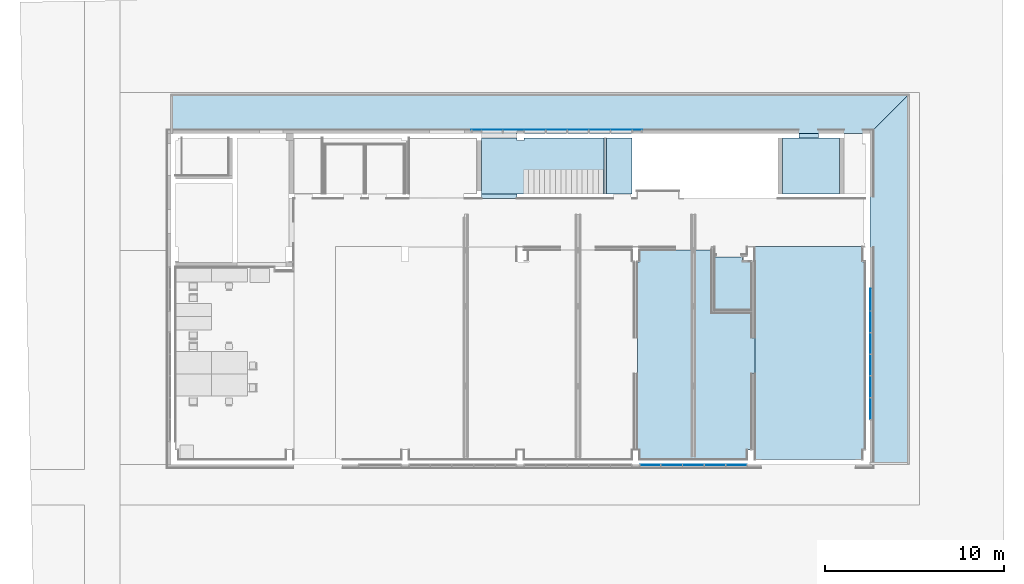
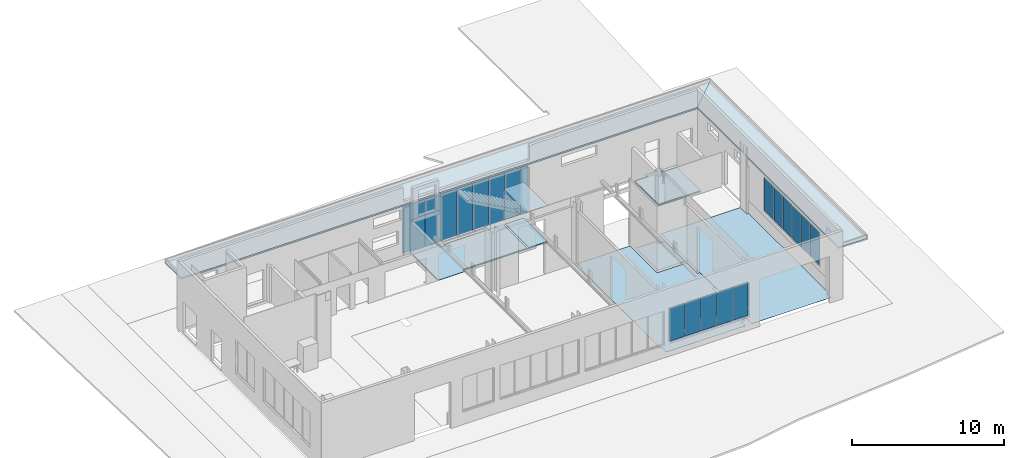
# One storey, part 9 of 27: 22 plates, 13 slabs, 4 elements without a shape of their own.
"""IFC2X3 building model written with IfcOpenShell, lengths in centimetres."""

from ifc_helpers import new_model, entity, si_unit, converted_unit, derived_unit, direction, frame, frame_2d, origin, origin_2d_with_axis, place, context, subcontext, project, spatial, polyline, rectangle, outline, extrude, source, transform, mapped, material, layer, layer_set, layer_usage, type_object, type_shapes, element, aggregate, save


model = new_model("IFC2X3")

# Units and contexts
model_context = context("Model", 3, precision=0.001, world=origin(), true_north=direction((6.12303176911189e-17, 1.0)))
body_context = subcontext(model_context, "Body", "Model", "MODEL_VIEW")
ifc_project = project(units=[si_unit("LENGTHUNIT", "METRE", prefix="CENTI"), si_unit("AREAUNIT", "SQUARE_METRE"), si_unit("VOLUMEUNIT", "CUBIC_METRE"), converted_unit("PLANEANGLEUNIT", "DEGREE", entity("IfcRatioMeasure", 0.0174532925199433), si_unit("PLANEANGLEUNIT", "RADIAN"), dimensions=[0, 0, 0, 0, 0, 0, 0]), si_unit("MASSUNIT", "GRAM", prefix="KILO"), derived_unit("MASSDENSITYUNIT", [(si_unit("MASSUNIT", "GRAM", prefix="KILO"), 1), (si_unit("LENGTHUNIT", "METRE"), -3)]), derived_unit("MOMENTOFINERTIAUNIT", [(si_unit("LENGTHUNIT", "METRE"), 4)]), si_unit("TIMEUNIT", "SECOND"), si_unit("FREQUENCYUNIT", "HERTZ"), si_unit("THERMODYNAMICTEMPERATUREUNIT", "DEGREE_CELSIUS"), derived_unit("THERMALTRANSMITTANCEUNIT", [(si_unit("MASSUNIT", "GRAM", prefix="KILO"), 1), (si_unit("THERMODYNAMICTEMPERATUREUNIT", "KELVIN"), -1), (si_unit("TIMEUNIT", "SECOND"), -3)]), derived_unit("VOLUMETRICFLOWRATEUNIT", [(si_unit("LENGTHUNIT", "METRE"), 3), (si_unit("TIMEUNIT", "SECOND"), -1)]), si_unit("ELECTRICCURRENTUNIT", "AMPERE"), si_unit("ELECTRICVOLTAGEUNIT", "VOLT"), si_unit("POWERUNIT", "WATT"), si_unit("FORCEUNIT", "NEWTON", prefix="KILO"), si_unit("ILLUMINANCEUNIT", "LUX"), si_unit("LUMINOUSFLUXUNIT", "LUMEN"), si_unit("LUMINOUSINTENSITYUNIT", "CANDELA"), derived_unit("USERDEFINED", [(si_unit("MASSUNIT", "GRAM", prefix="KILO"), -1), (si_unit("LENGTHUNIT", "METRE"), -2), (si_unit("TIMEUNIT", "SECOND"), 3), (si_unit("LUMINOUSFLUXUNIT", "LUMEN"), 1)]), derived_unit("LINEARVELOCITYUNIT", [(si_unit("LENGTHUNIT", "METRE"), 1), (si_unit("TIMEUNIT", "SECOND"), -1)]), si_unit("PRESSUREUNIT", "PASCAL"), derived_unit("USERDEFINED", [(si_unit("LENGTHUNIT", "METRE"), -2), (si_unit("MASSUNIT", "GRAM", prefix="KILO"), 1), (si_unit("TIMEUNIT", "SECOND"), -2)]), derived_unit("LINEARFORCEUNIT", [(si_unit("MASSUNIT", "GRAM", prefix="KILO"), 1), (si_unit("LENGTHUNIT", "METRE"), 1), (si_unit("TIMEUNIT", "SECOND"), -2), (si_unit("LENGTHUNIT", "METRE"), -1)]), derived_unit("PLANARFORCEUNIT", [(si_unit("MASSUNIT", "GRAM", prefix="KILO"), 1), (si_unit("LENGTHUNIT", "METRE"), 1), (si_unit("TIMEUNIT", "SECOND"), -2), (si_unit("LENGTHUNIT", "METRE"), -2)])], contexts=[model_context])

# Site, building, storey
site_placement = place(None, origin())
site = spatial("IfcSite", under=ifc_project, at=site_placement, Name="Default", CompositionType="ELEMENT")
building_placement = place(site_placement, origin())
building = spatial("IfcBuilding", under=site, at=building_placement, CompositionType="ELEMENT")
storey_placement = place(building_placement, origin())
storey = spatial("IfcBuildingStorey", under=building, at=storey_placement, Name="Poziom 0 A +/-0,00", CompositionType="ELEMENT", Elevation=3.38570427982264e-11)

# Slabs
slab_1_placement = place(storey_placement, frame((-2934.26510657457, 255.127657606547, 390.0)))
slab_1 = element("IfcSlab", 1, at=slab_1_placement, inside=storey, Name="Strop:Płyty betonowe gr. 12cm", ObjectType="Strop:Płyty betonowe gr. 12cm", PredefinedType="NOTDEFINED")
ifc_material_1 = material(Name="Płyty betonowe")
ifc_layer_1 = layer(ifc_material_1, 12.0)
ifc_layer_set_1 = layer_set([ifc_layer_1], Name="Strop:Płyty betonowe gr. 12cm")
slab_type_1 = type_object("IfcSlabType", Name="Strop:Płyty betonowe gr. 12cm", PredefinedType="FLOOR")
slab_2_placement = place(slab_1_placement, origin())
slab_2 = element("IfcSlab", 2, at=slab_2_placement, type_object=slab_type_1, material=ifc_layer_set_1, Name="Strop:Płyty betonowe gr. 12cm", ObjectType="Strop:Płyty betonowe gr. 12cm", PredefinedType="FLOOR", context=body_context, shape_type="SweptSolid", body=[
    extrude(outline(polyline([(-2065.0, -110.02004362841), (-2055.0, -110.02004362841), (1845.0, -110.020043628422), (1864.99999046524, -90.0164062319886), (1866.9999939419, -88.0160383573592), (2055.0, 100.01822156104), (2065.0, 110.02004362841), (1845.0, 110.020043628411), (-2065.0, 110.020043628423), (-2065.0, 100.018221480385), (-2065.0, -90.0164007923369), (-2065.0, -110.02004362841)])), frame((2065.0, 1959.99979446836, 14.1), z_axis=(0.0, 0.0190874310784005, 0.999817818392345), x_axis=(1.0, 0.0, 0.0)), (0.0, 0.0190874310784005, -0.999817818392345), 12.0),
])
slab_type_2 = type_object("IfcSlabType", Name="Strop:Płyty betonowe gr. 12cm", PredefinedType="FLOOR")
slab_3_placement = place(slab_1_placement, origin())
slab_3 = element("IfcSlab", 3, at=slab_3_placement, type_object=slab_type_2, material=ifc_layer_set_1, Name="Strop:Płyty betonowe gr. 12cm", ObjectType="Strop:Płyty betonowe gr. 12cm", PredefinedType="FLOOR", context=body_context, shape_type="SweptSolid", body=[
    extrude(outline(polyline([(-110.020045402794, 814.999897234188), (-110.020045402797, -1024.99989723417), (-110.020045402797, -1034.99989723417), (-90.0164076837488, -1034.99989723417), (-88.0160432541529, -1034.99989723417), (100.018223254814, -1034.99989723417), (110.020045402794, -1034.99989723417), (110.020045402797, 1034.99989723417), (100.01822317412, 1024.99989731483), (-88.0160397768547, 836.999893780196), (-90.0164076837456, 834.999890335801), (-110.020045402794, 814.999897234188)])), frame((4020.0, 1034.99989723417, 14.1), z_axis=(0.0190874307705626, 0.0, 0.999817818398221), x_axis=(0.999817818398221, 0.0, -0.0190874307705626)), (0.0190874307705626, 0.0, -0.999817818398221), 12.0),
])
aggregate(slab_1, [slab_2, slab_3])

ifc_material_2 = material(Name="Wylewka")
ifc_layer_2 = layer(ifc_material_2, 8.0)
ifc_layer_set_2 = layer_set([ifc_layer_2], Name="Strop:Wylewka zbrojona 8cm")
ifc_layer_usage_1 = layer_usage(ifc_layer_set_2, "AXIS3", "POSITIVE", 0.0)
slab_type_3 = type_object("IfcSlabType", Name="Strop:Wylewka zbrojona 8cm", PredefinedType="FLOOR", material=ifc_layer_set_2)
slab_4_placement = place(storey_placement, origin())
element("IfcSlab", 4, at=slab_4_placement, inside=storey, type_object=slab_type_3, material=ifc_layer_usage_1, Name="Strop:Wylewka zbrojona 8cm", ObjectType="Strop:Wylewka zbrojona 8cm", PredefinedType="FLOOR", context=body_context, shape_type="SweptSolid", body=[
    extrude(outline(polyline([(-230.249994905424, -279.999897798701), (81.750005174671, -279.999897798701), (81.750005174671, -82.5000305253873), (66.7500051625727, -82.5000305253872), (66.7500051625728, -42.5000305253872), (81.7499845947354, -42.5000305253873), (81.749984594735, 404.999958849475), (-230.249994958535, 404.999958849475), (-230.249994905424, -279.999897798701)])), frame((-916.765078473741, 1998.37744691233, -2.0), z_axis=(0.0, 0.0, -1.0), x_axis=(0.0, 1.0, 0.0)), (0.0, 0.0, 1.0), 8.0),
])
ifc_layer_usage_2 = layer_usage(ifc_layer_set_2, "AXIS3", "POSITIVE", 0.0)
slab_type_4 = type_object("IfcSlabType", Name="Strop:Wylewka zbrojona 8cm", PredefinedType="FLOOR", material=ifc_layer_set_2)
slab_5_placement = place(storey_placement, origin())
element("IfcSlab", 5, at=slab_5_placement, inside=storey, type_object=slab_type_4, material=ifc_layer_usage_2, Name="Strop:Wylewka zbrojona 8cm", ObjectType="Strop:Wylewka zbrojona 8cm", PredefinedType="FLOOR", context=body_context, shape_type="SweptSolid", body=[
    extrude(rectangle(XDim=311.999979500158, YDim=157.500131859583, at=origin_2d_with_axis()), frame((-433.015053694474, 1924.12744175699, -2.0), z_axis=(0.0, 0.0, -1.0), x_axis=(0.0, 1.0, 0.0)), (0.0, 0.0, 1.0), 8.0),
])
ifc_layer_3 = layer(ifc_material_2, 10.0)
ifc_layer_set_3 = layer_set([ifc_layer_3], Name="Strop:Wylewka betonowa gr. 10cm")
ifc_layer_usage_3 = layer_usage(ifc_layer_set_3, "AXIS3", "POSITIVE", 0.0)
slab_type_5 = type_object("IfcSlabType", Name="Strop:Wylewka betonowa gr. 10cm", PredefinedType="FLOOR", material=ifc_layer_set_3)
slab_6_placement = place(storey_placement, origin())
element("IfcSlab", 6, at=slab_6_placement, inside=storey, type_object=slab_type_5, material=ifc_layer_usage_3, Name="Strop:Wylewka betonowa gr. 10cm", ObjectType="Strop:Wylewka betonowa gr. 10cm", PredefinedType="FLOOR", context=body_context, shape_type="SweptSolid", body=[
    extrude(rectangle(XDim=312.000018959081, YDim=318.499992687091, at=frame_2d((0.0, -4.2632564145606e-14), x_axis=(1.0, 0.0))), frame((645.484875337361, 1924.12744113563, 0.0), z_axis=(0.0, 0.0, -1.0), x_axis=(0.0, 1.0, 0.0)), (0.0, 0.0, 1.0), 10.0),
])

# Curtain wall, plates
curtain_wall_type_1 = type_object("IfcCurtainWallType", PredefinedType="NOTDEFINED")
curtain_wall_1_placement = place(storey_placement, origin())
curtain_wall_1 = element("IfcCurtainWall", 7, at=curtain_wall_1_placement, inside=storey, type_object=curtain_wall_type_1)
ifc_material_3 = material(Name="Szkło")
plate_type_1 = type_object("IfcPlateType", Name="Panel systemowy:Przeszklony", PredefinedType="CURTAIN_PANEL", material=ifc_material_3)
shared_shape_1 = source(origin(), body_context, "Body", "SweptSolid", [
    extrude(rectangle(XDim=2.5, YDim=116.00000002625, at=origin_2d_with_axis()), frame((0.0, 0.0, 0.0), z_axis=(0.0, 0.0, 1.0), x_axis=(0.0, 1.0, 0.0)), (0.0, 0.0, 1.0), 264.999999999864),
])
type_shapes(plate_type_1, [shared_shape_1])
plate_1_placement = place(curtain_wall_1_placement, frame((-132.762682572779, 251.127499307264, 105.0)))
plate_1 = element("IfcPlate", 8, at=plate_1_placement, type_object=plate_type_1, material=ifc_material_3, Name="Panel systemowy:Przeszklony", ObjectType="Panel systemowy:Przeszklony", context=body_context, shape_type="MappedRepresentation", body=[
    mapped(shared_shape_1, transform((0.0, 0.0, 0.0), scale=1.0)),
])
plate_2_placement = place(curtain_wall_1_placement, frame((109.237321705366, 251.127499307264, 105.0)))
plate_2 = element("IfcPlate", 9, at=plate_2_placement, type_object=plate_type_1, material=ifc_material_3, Name="Panel systemowy:Przeszklony", ObjectType="Panel systemowy:Przeszklony", context=body_context, shape_type="MappedRepresentation", body=[
    mapped(shared_shape_1, transform((0.0, 0.0, 0.0), scale=1.0)),
])

curtain_wall_2_placement = place(storey_placement, origin())
curtain_wall_2 = element("IfcCurtainWall", 10, at=curtain_wall_2_placement, inside=storey, type_object=curtain_wall_type_1)
plate_3_placement = place(curtain_wall_2_placement, frame((979.734898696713, 809.627249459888, 105.0), z_axis=(0.0, 0.0, 1.0), x_axis=(0.0, 1.0, 0.0)))
plate_3 = element("IfcPlate", 11, at=plate_3_placement, type_object=plate_type_1, material=ifc_material_3, Name="Panel systemowy:Przeszklony", ObjectType="Panel systemowy:Przeszklony", context=body_context, shape_type="MappedRepresentation", body=[
    mapped(shared_shape_1, transform((0.0, 0.0, 0.0), scale=1.0)),
])
plate_4_placement = place(curtain_wall_2_placement, frame((979.734898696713, 930.627249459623, 105.0), z_axis=(0.0, 0.0, 1.0), x_axis=(0.0, 1.0, 0.0)))
plate_4 = element("IfcPlate", 12, at=plate_4_placement, type_object=plate_type_1, material=ifc_material_3, Name="Panel systemowy:Przeszklony", ObjectType="Panel systemowy:Przeszklony", context=body_context, shape_type="MappedRepresentation", body=[
    mapped(shared_shape_1, transform((0.0, 0.0, 0.0), scale=1.0)),
])
plate_5_placement = place(curtain_wall_2_placement, frame((979.734898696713, 1051.62724946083, 105.0), z_axis=(0.0, 0.0, 1.0), x_axis=(0.0, 1.0, 0.0)))
plate_5 = element("IfcPlate", 13, at=plate_5_placement, type_object=plate_type_1, material=ifc_material_3, Name="Panel systemowy:Przeszklony", ObjectType="Panel systemowy:Przeszklony", context=body_context, shape_type="MappedRepresentation", body=[
    mapped(shared_shape_1, transform((0.0, 0.0, 0.0), scale=1.0)),
])

# Plate
plate_type_2 = type_object("IfcPlateType", Name="Panel systemowy:Przeszklony", PredefinedType="CURTAIN_PANEL", material=ifc_material_3)
shared_shape_2 = source(origin(), body_context, "Body", "SweptSolid", [
    extrude(rectangle(XDim=2.5, YDim=116.000004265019, at=origin_2d_with_axis()), frame((0.0, 0.0, 0.0), z_axis=(0.0, 0.0, 1.0), x_axis=(0.0, 1.0, 0.0)), (0.0, 0.0, 1.0), 264.999999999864),
])
type_shapes(plate_type_2, [shared_shape_2])
plate_6_placement = place(curtain_wall_1_placement, frame((-11.7626804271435, 251.127499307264, 105.0)))
plate_6 = element("IfcPlate", 14, at=plate_6_placement, type_object=plate_type_2, material=ifc_material_3, Name="Panel systemowy:Przeszklony", ObjectType="Panel systemowy:Przeszklony", context=body_context, shape_type="MappedRepresentation", body=[
    mapped(shared_shape_2, transform((0.0, 0.0, 0.0), scale=1.0)),
])

plate_type_3 = type_object("IfcPlateType", Name="Panel systemowy:Przeszklony", PredefinedType="CURTAIN_PANEL", material=ifc_material_3)
shared_shape_3 = source(origin(), body_context, "Body", "SweptSolid", [
    extrude(rectangle(XDim=2.5, YDim=113.502306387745, at=frame_2d((0.0, 3.5527136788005e-15), x_axis=(1.0, 0.0))), frame((0.0, 0.0, 0.0), z_axis=(0.0, 0.0, 1.0), x_axis=(0.0, 1.0, 0.0)), (0.0, 0.0, 1.0), 264.999999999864),
])
type_shapes(plate_type_3, [shared_shape_3])
plate_7_placement = place(curtain_wall_1_placement, frame((-252.513835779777, 251.127499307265, 105.0)))
plate_7 = element("IfcPlate", 15, at=plate_7_placement, type_object=plate_type_3, material=ifc_material_3, Name="Panel systemowy:Przeszklony", ObjectType="Panel systemowy:Przeszklony", context=body_context, shape_type="MappedRepresentation", body=[
    mapped(shared_shape_3, transform((0.0, 0.0, 0.0), scale=1.0)),
])

plate_type_4 = type_object("IfcPlateType", Name="Panel systemowy:Przeszklony", PredefinedType="CURTAIN_PANEL", material=ifc_material_3)
shared_shape_4 = source(origin(), body_context, "Body", "SweptSolid", [
    extrude(rectangle(XDim=2.5, YDim=113.497686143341, at=origin_2d_with_axis()), frame((0.0, 0.0, 0.0), z_axis=(0.0, 0.0, 1.0), x_axis=(0.0, 1.0, 0.0)), (0.0, 0.0, 1.0), 264.999999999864),
])
type_shapes(plate_type_4, [shared_shape_4])
plate_8_placement = place(curtain_wall_1_placement, frame((228.986164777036, 251.127499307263, 105.0)))
plate_8 = element("IfcPlate", 16, at=plate_8_placement, type_object=plate_type_4, material=ifc_material_3, Name="Panel systemowy:Przeszklony", ObjectType="Panel systemowy:Przeszklony", context=body_context, shape_type="MappedRepresentation", body=[
    mapped(shared_shape_4, transform((0.0, 0.0, 0.0), scale=1.0)),
])

aggregate(curtain_wall_1, [plate_7, plate_1, plate_6, plate_2, plate_8])

plate_type_5 = type_object("IfcPlateType", Name="Panel systemowy:Przeszklony", PredefinedType="CURTAIN_PANEL", material=ifc_material_3)
shared_shape_5 = source(origin(), body_context, "Body", "SweptSolid", [
    extrude(rectangle(XDim=2.5, YDim=118.500000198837, at=origin_2d_with_axis()), frame((0.0, 0.0, 0.0), z_axis=(0.0, 0.0, 1.0), x_axis=(0.0, 1.0, 0.0)), (0.0, 0.0, 1.0), 264.999999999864),
])
type_shapes(plate_type_5, [shared_shape_5])
plate_9_placement = place(curtain_wall_2_placement, frame((979.734898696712, 566.376457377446, 105.0), z_axis=(0.0, 0.0, 1.0), x_axis=(0.0, 1.0, 0.0)))
plate_9 = element("IfcPlate", 17, at=plate_9_placement, type_object=plate_type_5, material=ifc_material_3, Name="Panel systemowy:Przeszklony", ObjectType="Panel systemowy:Przeszklony", context=body_context, shape_type="MappedRepresentation", body=[
    mapped(shared_shape_5, transform((0.0, 0.0, 0.0), scale=1.0)),
])

plate_type_6 = type_object("IfcPlateType", Name="Panel systemowy:Przeszklony", PredefinedType="CURTAIN_PANEL", material=ifc_material_3)
shared_shape_6 = source(origin(), body_context, "Body", "SweptSolid", [
    extrude(rectangle(XDim=2.5, YDim=116.000791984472, at=origin_2d_with_axis()), frame((0.0, 0.0, 0.0), z_axis=(0.0, 0.0, 1.0), x_axis=(0.0, 1.0, 0.0)), (0.0, 0.0, 1.0), 264.999999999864),
])
type_shapes(plate_type_6, [shared_shape_6])
plate_10_placement = place(curtain_wall_2_placement, frame((979.734898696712, 688.626853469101, 105.0), z_axis=(0.0, 0.0, 1.0), x_axis=(0.0, 1.0, 0.0)))
plate_10 = element("IfcPlate", 18, at=plate_10_placement, type_object=plate_type_6, material=ifc_material_3, Name="Panel systemowy:Przeszklony", ObjectType="Panel systemowy:Przeszklony", context=body_context, shape_type="MappedRepresentation", body=[
    mapped(shared_shape_6, transform((0.0, 0.0, 0.0), scale=1.0)),
])

plate_type_7 = type_object("IfcPlateType", Name="Panel systemowy:Przeszklony", PredefinedType="CURTAIN_PANEL", material=ifc_material_3)
shared_shape_7 = source(origin(), body_context, "Body", "SweptSolid", [
    extrude(rectangle(XDim=2.5, YDim=123.499213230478, at=origin_2d_with_axis()), frame((0.0, 0.0, 0.0), z_axis=(0.0, 0.0, 1.0), x_axis=(0.0, 1.0, 0.0)), (0.0, 0.0, 1.0), 264.999999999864),
])
type_shapes(plate_type_7, [shared_shape_7])
plate_11_placement = place(curtain_wall_2_placement, frame((979.734898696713, 1176.3768560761, 105.0), z_axis=(0.0, 0.0, 1.0), x_axis=(0.0, 1.0, 0.0)))
plate_11 = element("IfcPlate", 19, at=plate_11_placement, type_object=plate_type_7, material=ifc_material_3, Name="Panel systemowy:Przeszklony", ObjectType="Panel systemowy:Przeszklony", context=body_context, shape_type="MappedRepresentation", body=[
    mapped(shared_shape_7, transform((0.0, 0.0, 0.0), scale=1.0)),
])

aggregate(curtain_wall_2, [plate_9, plate_10, plate_3, plate_4, plate_5, plate_11])

# Curtain wall, plates
curtain_wall_type_2 = type_object("IfcCurtainWallType", PredefinedType="NOTDEFINED")
curtain_wall_3_placement = place(storey_placement, origin())
curtain_wall_3 = element("IfcCurtainWall", 20, at=curtain_wall_3_placement, inside=storey, type_object=curtain_wall_type_2)
plate_type_8 = type_object("IfcPlateType", Name="Panel systemowy:Przeszklony - System strukturalny", PredefinedType="CURTAIN_PANEL", material=ifc_material_3)
shared_shape_8 = source(origin(), body_context, "Body", "SweptSolid", [
    extrude(rectangle(XDim=2.0, YDim=119.0, at=frame_2d((-8.88178419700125e-16, 0.0), x_axis=(1.0, 0.0))), frame((0.0, 9.75, 0.0), z_axis=(0.0, 0.0, 1.0), x_axis=(0.0, 1.0, 0.0)), (0.0, 0.0, 1.0), 127.5),
])
type_shapes(plate_type_8, [shared_shape_8])
plate_12_placement = place(curtain_wall_3_placement, frame((-1137.2651152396, 2116.37745208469, 247.499999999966)))
plate_12 = element("IfcPlate", 21, at=plate_12_placement, type_object=plate_type_8, material=ifc_material_3, Name="Panel systemowy:Przeszklony - System strukturalny", ObjectType="Panel systemowy:Przeszklony - System strukturalny", context=body_context, shape_type="MappedRepresentation", body=[
    mapped(shared_shape_8, transform((0.0, 0.0, 0.0), scale=1.0)),
])
plate_type_9 = type_object("IfcPlateType", Name="Panel systemowy:Przeszklony - System strukturalny", PredefinedType="CURTAIN_PANEL", material=ifc_material_3)
shared_shape_9 = source(origin(), body_context, "Body", "SweptSolid", [
    extrude(rectangle(XDim=2.0, YDim=118.499982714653, at=frame_2d((-8.88178419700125e-16, 0.0), x_axis=(1.0, 0.0))), frame((0.0, 9.75, 0.0), z_axis=(0.0, 0.0, 1.0), x_axis=(0.0, 1.0, 0.0)), (0.0, 0.0, 1.0), 127.5),
])
type_shapes(plate_type_9, [shared_shape_9])
plate_13_placement = place(curtain_wall_3_placement, frame((-1018.51512388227, 2116.37745208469, 247.499999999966)))
plate_13 = element("IfcPlate", 22, at=plate_13_placement, type_object=plate_type_9, material=ifc_material_3, Name="Panel systemowy:Przeszklony - System strukturalny", ObjectType="Panel systemowy:Przeszklony - System strukturalny", context=body_context, shape_type="MappedRepresentation", body=[
    mapped(shared_shape_9, transform((0.0, 0.0, 0.0), scale=1.0)),
])

# Slabs
ifc_material_4 = material(Name="Gres jasny")
ifc_layer_4 = layer(ifc_material_4, 2.0)
ifc_layer_set_4 = layer_set([ifc_layer_4], Name="Strop:Gres na kleju gr. 2cm techniczne")
ifc_layer_usage_4 = layer_usage(ifc_layer_set_4, "AXIS3", "POSITIVE", 0.0)
slab_type_6 = type_object("IfcSlabType", Name="Strop:Gres na kleju gr. 2cm techniczne", PredefinedType="FLOOR")
slab_7_placement = place(storey_placement, frame((-2246.76511972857, 1768.12743150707, 0.0)))
element("IfcSlab", 23, at=slab_7_placement, inside=storey, type_object=slab_type_6, material=ifc_layer_usage_4, Name="Strop:Gres na kleju gr. 2cm techniczne:2", ObjectType="Strop:Gres na kleju gr. 2cm techniczne", PredefinedType="FLOOR", context=body_context, shape_type="SweptSolid", body=[
    extrude(rectangle(XDim=312.0, YDim=142.0, at=frame_2d((-222.750123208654, -12.5000095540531), x_axis=(0.0, -1.0))), frame((1598.75000875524, 168.500009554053, 2.0), z_axis=(0.0, 0.0, -1.0), x_axis=(-1.0, 0.0, 0.0)), (0.0, 0.0, 1.0), 2.0),
])
slab_type_7 = type_object("IfcSlabType", Name="Strop:Gres na kleju gr. 2cm techniczne", PredefinedType="FLOOR")
slab_8_placement = place(storey_placement, frame((-2246.76511972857, 1768.12743150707, 0.0)))
element("IfcSlab", 24, at=slab_8_placement, inside=storey, type_object=slab_type_7, material=ifc_layer_usage_4, Name="Strop:Gres na kleju gr. 2cm techniczne:3", ObjectType="Strop:Gres na kleju gr. 2cm techniczne", PredefinedType="FLOOR", context=body_context, shape_type="SweptSolid", body=[
    extrude(outline(polyline([(-1134.24998996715, -168.499989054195), (-1134.24998996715, 143.500009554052), (-1226.24998898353, 143.500009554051), (-1226.24998898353, 168.500009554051), (-1336.24998898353, 168.500009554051), (-1336.24998898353, 143.50000955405), (-1452.74998265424, 143.50000955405), (-1452.74998265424, -168.499989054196), (-1134.24998996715, -168.499989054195)])), frame((1598.75000875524, 168.500009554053, 2.0), z_axis=(0.0, 0.0, -1.0), x_axis=(-1.0, 0.0, 0.0)), (0.0, 0.0, 1.0), 2.0),
])

# Plate
plate_type_10 = type_object("IfcPlateType", Name="Panel systemowy:Przeszklony - System strukturalny", PredefinedType="CURTAIN_PANEL", material=ifc_material_3)
shared_shape_10 = source(origin(), body_context, "Body", "SweptSolid", [
    extrude(rectangle(XDim=374.999999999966, YDim=56.0, at=frame_2d((-19.9999999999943, 0.0), x_axis=(1.0, 0.0))), frame((0.0, 8.75, 207.499999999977), z_axis=(0.0, 1.0, 0.0), x_axis=(0.0, 0.0, 1.0)), (0.0, 0.0, 1.0), 2.0),
])
type_shapes(plate_type_10, [shared_shape_10])
plate_14_placement = place(curtain_wall_3_placement, frame((-1224.7651152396, 2116.37745208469, 0.0)))
plate_14 = element("IfcPlate", 25, at=plate_14_placement, type_object=plate_type_10, material=ifc_material_3, Name="Panel systemowy:Przeszklony - System strukturalny", ObjectType="Panel systemowy:Przeszklony - System strukturalny", context=body_context, shape_type="MappedRepresentation", body=[
    mapped(shared_shape_10, transform((0.0, 0.0, 0.0), scale=1.0)),
])

plate_15_placement = place(curtain_wall_3_placement, frame((-326.265132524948, 2116.37745208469, 0.0)))
plate_15 = element("IfcPlate", 26, at=plate_15_placement, type_object=plate_type_10, material=ifc_material_3, Name="Panel systemowy:Przeszklony - System strukturalny", ObjectType="Panel systemowy:Przeszklony - System strukturalny", context=body_context, shape_type="MappedRepresentation", body=[
    mapped(shared_shape_10, transform((0.0, 0.0, 0.0), scale=1.0)),
])

plate_type_11 = type_object("IfcPlateType", Name="Panel systemowy:Przeszklony - System strukturalny", PredefinedType="CURTAIN_PANEL", material=ifc_material_3)
shared_shape_11 = source(origin(), body_context, "Body", "SweptSolid", [
    extrude(rectangle(XDim=2.0, YDim=119.0, at=frame_2d((-8.88178419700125e-16, 0.0), x_axis=(1.0, 0.0))), frame((0.0, 9.75, 0.0), z_axis=(0.0, 0.0, 1.0), x_axis=(0.0, 1.0, 0.0)), (0.0, 0.0, 1.0), 247.499999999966),
])
type_shapes(plate_type_11, [shared_shape_11])
plate_16_placement = place(curtain_wall_3_placement, frame((-1137.2651152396, 2116.37745208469, 0.0)))
plate_16 = element("IfcPlate", 27, at=plate_16_placement, type_object=plate_type_11, material=ifc_material_3, Name="Panel systemowy:Przeszklony - System strukturalny", ObjectType="Panel systemowy:Przeszklony - System strukturalny", context=body_context, shape_type="MappedRepresentation", body=[
    mapped(shared_shape_11, transform((0.0, 0.0, 0.0), scale=1.0)),
])

plate_type_12 = type_object("IfcPlateType", Name="Panel systemowy:Przeszklony - System strukturalny", PredefinedType="CURTAIN_PANEL", material=ifc_material_3)
shared_shape_12 = source(origin(), body_context, "Body", "SweptSolid", [
    extrude(rectangle(XDim=2.0, YDim=118.499982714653, at=frame_2d((-8.88178419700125e-16, 0.0), x_axis=(1.0, 0.0))), frame((0.0, 9.75, 0.0), z_axis=(0.0, 0.0, 1.0), x_axis=(0.0, 1.0, 0.0)), (0.0, 0.0, 1.0), 247.499999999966),
])
type_shapes(plate_type_12, [shared_shape_12])
plate_17_placement = place(curtain_wall_3_placement, frame((-1018.51512388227, 2116.37745208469, 0.0)))
plate_17 = element("IfcPlate", 28, at=plate_17_placement, type_object=plate_type_12, material=ifc_material_3, Name="Panel systemowy:Przeszklony - System strukturalny", ObjectType="Panel systemowy:Przeszklony - System strukturalny", context=body_context, shape_type="MappedRepresentation", body=[
    mapped(shared_shape_12, transform((0.0, 0.0, 0.0), scale=1.0)),
])

plate_type_13 = type_object("IfcPlateType", Name="Panel systemowy:Przeszklony - System strukturalny", PredefinedType="CURTAIN_PANEL", material=ifc_material_3)
shared_shape_13 = source(origin(), body_context, "Body", "SweptSolid", [
    extrude(rectangle(XDim=374.999999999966, YDim=121.0, at=frame_2d((-19.9999999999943, 0.0), x_axis=(1.0, 0.0))), frame((0.0, 8.75, 207.499999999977), z_axis=(0.0, 1.0, 0.0), x_axis=(0.0, 0.0, 1.0)), (0.0, 0.0, 1.0), 2.0),
])
type_shapes(plate_type_13, [shared_shape_13])
plate_18_placement = place(curtain_wall_3_placement, frame((-898.765132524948, 2116.37745208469, 0.0)))
plate_18 = element("IfcPlate", 29, at=plate_18_placement, type_object=plate_type_13, material=ifc_material_3, Name="Panel systemowy:Przeszklony - System strukturalny", ObjectType="Panel systemowy:Przeszklony - System strukturalny", context=body_context, shape_type="MappedRepresentation", body=[
    mapped(shared_shape_13, transform((0.0, 0.0, 0.0), scale=1.0)),
])

plate_19_placement = place(curtain_wall_3_placement, frame((-777.765132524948, 2116.37745208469, 0.0)))
plate_19 = element("IfcPlate", 30, at=plate_19_placement, type_object=plate_type_13, material=ifc_material_3, Name="Panel systemowy:Przeszklony - System strukturalny", ObjectType="Panel systemowy:Przeszklony - System strukturalny", context=body_context, shape_type="MappedRepresentation", body=[
    mapped(shared_shape_13, transform((0.0, 0.0, 0.0), scale=1.0)),
])

plate_20_placement = place(curtain_wall_3_placement, frame((-656.765132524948, 2116.37745208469, 0.0)))
plate_20 = element("IfcPlate", 31, at=plate_20_placement, type_object=plate_type_13, material=ifc_material_3, Name="Panel systemowy:Przeszklony - System strukturalny", ObjectType="Panel systemowy:Przeszklony - System strukturalny", context=body_context, shape_type="MappedRepresentation", body=[
    mapped(shared_shape_13, transform((0.0, 0.0, 0.0), scale=1.0)),
])

plate_21_placement = place(curtain_wall_3_placement, frame((-535.765132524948, 2116.37745208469, 0.0)))
plate_21 = element("IfcPlate", 32, at=plate_21_placement, type_object=plate_type_13, material=ifc_material_3, Name="Panel systemowy:Przeszklony - System strukturalny", ObjectType="Panel systemowy:Przeszklony - System strukturalny", context=body_context, shape_type="MappedRepresentation", body=[
    mapped(shared_shape_13, transform((0.0, 0.0, 0.0), scale=1.0)),
])

plate_22_placement = place(curtain_wall_3_placement, frame((-414.765132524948, 2116.37745208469, 0.0)))
plate_22 = element("IfcPlate", 33, at=plate_22_placement, type_object=plate_type_13, material=ifc_material_3, Name="Panel systemowy:Przeszklony - System strukturalny", ObjectType="Panel systemowy:Przeszklony - System strukturalny", context=body_context, shape_type="MappedRepresentation", body=[
    mapped(shared_shape_13, transform((0.0, 0.0, 0.0), scale=1.0)),
])

aggregate(curtain_wall_3, [plate_14, plate_16, plate_17, plate_18, plate_19, plate_20, plate_21, plate_22, plate_15, plate_12, plate_13])

# Slabs
ifc_material_5 = material(Name="Wylewka żywiczna szara")
ifc_layer_5 = layer(ifc_material_5, 0.6)
ifc_layer_set_5 = layer_set([ifc_layer_5], Name="Strop:Żywica epoksydowa pom. techniczne parter 2")
ifc_layer_usage_5 = layer_usage(ifc_layer_set_5, "AXIS3", "POSITIVE", 0.0)
slab_type_8 = type_object("IfcSlabType", Name="Strop:Żywica epoksydowa pom. techniczne parter 2", PredefinedType="FLOOR", material=ifc_layer_set_5)
slab_9_placement = place(storey_placement, origin())
element("IfcSlab", 34, at=slab_9_placement, inside=storey, type_object=slab_type_8, material=ifc_layer_usage_5, Name="Strop:Żywica epoksydowa pom. techniczne parter 2", ObjectType="Strop:Żywica epoksydowa pom. techniczne parter 2", PredefinedType="FLOOR", context=body_context, shape_type="SweptSolid", body=[
    extrude(outline(polyline([(-587.500026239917, -453.750002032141), (602.50000874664, -453.750002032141), (602.500008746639, 146.249997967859), (517.499905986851, 146.249997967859), (517.499905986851, 161.250005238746), (-532.499888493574, 161.250005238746), (-532.499888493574, 146.249998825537), (-587.500026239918, 146.249998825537), (-587.500026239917, -453.750002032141)])), frame((786.984892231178, 870.127546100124, 0.6), z_axis=(0.0, 0.0, -1.0), x_axis=(0.0, 1.0, 0.0)), (0.0, 0.0, 1.0), 0.6),
])
ifc_layer_usage_6 = layer_usage(ifc_layer_set_5, "AXIS3", "POSITIVE", 0.0)
slab_type_9 = type_object("IfcSlabType", Name="Strop:Żywica epoksydowa pom. techniczne parter 2", PredefinedType="FLOOR", material=ifc_layer_set_5)
slab_10_placement = place(storey_placement, origin())
element("IfcSlab", 35, at=slab_10_placement, inside=storey, type_object=slab_type_9, material=ifc_layer_usage_6, Name="Strop:Żywica epoksydowa pom. techniczne parter 2", ObjectType="Strop:Żywica epoksydowa pom. techniczne parter 2", PredefinedType="FLOOR", context=body_context, shape_type="SweptSolid", body=[
    extrude(outline(polyline([(-560.000028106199, -354.999996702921), (489.999971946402, -354.999996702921), (489.999971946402, -342.499996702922), (554.999971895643, -342.499996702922), (554.999971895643, -142.499975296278), (556.999971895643, -142.499975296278), (556.999971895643, 57.5000247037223), (202.999971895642, 57.5000247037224), (202.999971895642, 282.500024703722), (65.000074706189, 282.500024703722), (65.000074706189, 302.500014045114), (-134.999925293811, 302.500014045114), (-134.999925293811, 282.500003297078), (-560.0000281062, 282.500003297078), (-560.0000281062, 257.500013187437), (-614.999980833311, 257.500013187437), (-614.99998083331, -342.500111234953), (-560.000028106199, -342.500111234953), (-560.000028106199, -354.999996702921)])), frame((30.7348770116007, 897.627480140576, 0.6), z_axis=(0.0, 0.0, -1.0), x_axis=(0.0, 1.0, 0.0)), (0.0, 0.0, 1.0), 0.6),
])
ifc_layer_usage_7 = layer_usage(ifc_layer_set_5, "AXIS3", "POSITIVE", 0.0)
slab_type_10 = type_object("IfcSlabType", Name="Strop:Żywica epoksydowa pom. techniczne parter 2", PredefinedType="FLOOR", material=ifc_layer_set_5)
slab_11_placement = place(storey_placement, origin())
element("IfcSlab", 36, at=slab_11_placement, inside=storey, type_object=slab_type_10, material=ifc_layer_usage_7, Name="Strop:Żywica epoksydowa pom. techniczne parter 2", ObjectType="Strop:Żywica epoksydowa pom. techniczne parter 2", PredefinedType="FLOOR", context=body_context, shape_type="SweptSolid", body=[
    extrude(outline(polyline([(-187.166666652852, -120.000001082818), (106.833333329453, -120.000001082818), (106.833333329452, 35.0000007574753), (80.3333333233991, 35.0000007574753), (80.333333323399, 85.0000003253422), (-187.166666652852, 85.0000003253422), (-187.166666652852, -120.000001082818)])), frame((228.234879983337, 1307.29411884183, 0.6), z_axis=(0.0, 0.0, -1.0), x_axis=(0.0, 1.0, 0.0)), (0.0, 0.0, 1.0), 0.6),
])
ifc_layer_usage_8 = layer_usage(ifc_layer_set_4, "AXIS3", "POSITIVE", 0.0)
slab_type_11 = type_object("IfcSlabType", Name="Strop:Gres na kleju gr. 2cm techniczne", PredefinedType="FLOOR", material=ifc_layer_set_4)
slab_12_placement = place(storey_placement, origin())
element("IfcSlab", 37, at=slab_12_placement, inside=storey, type_object=slab_type_11, material=ifc_layer_usage_8, Name="Strop:Gres na kleju gr. 2cm techniczne", ObjectType="Strop:Gres na kleju gr. 2cm techniczne", PredefinedType="FLOOR", context=body_context, shape_type="SweptSolid", body=[
    extrude(rectangle(XDim=312.0, YDim=142.0, at=frame_2d((-2.27373675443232e-13, -4.9737991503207e-14), x_axis=(1.0, 0.0))), frame((-425.264987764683, 1924.12743150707, 2.0), z_axis=(0.0, 0.0, -1.0), x_axis=(0.0, 1.0, 0.0)), (0.0, 0.0, 1.0), 2.0),
])
ifc_layer_usage_9 = layer_usage(ifc_layer_set_4, "AXIS3", "POSITIVE", 0.0)
slab_type_12 = type_object("IfcSlabType", Name="Strop:Gres na kleju gr. 2cm techniczne", PredefinedType="FLOOR", material=ifc_layer_set_4)
slab_13_placement = place(storey_placement, origin())
element("IfcSlab", 38, at=slab_13_placement, inside=storey, type_object=slab_type_12, material=ifc_layer_usage_9, Name="Strop:Gres na kleju gr. 2cm techniczne", ObjectType="Strop:Gres na kleju gr. 2cm techniczne", PredefinedType="FLOOR", context=body_context, shape_type="SweptSolid", body=[
    extrude(outline(polyline([(-213.699995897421, -263.499891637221), (165.800004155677, -263.499891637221), (165.800004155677, -68.5000349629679), (108.300004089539, -68.5000349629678), (108.300004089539, -23.5000349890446), (125.799983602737, -23.5000349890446), (125.799983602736, 421.499965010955), (-186.199995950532, 421.499965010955), (-186.199995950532, -66.000003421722), (-213.699995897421, -66.000003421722), (-213.699995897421, -263.499891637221)])), frame((-933.265084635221, 1954.32744790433, 2.0), z_axis=(0.0, 0.0, -1.0), x_axis=(0.0, 1.0, 0.0)), (0.0, 0.0, 1.0), 2.0),
])
ifc_layer_usage_10 = layer_usage(ifc_layer_set_4, "AXIS3", "POSITIVE", 0.0)
slab_type_13 = type_object("IfcSlabType", Name="Strop:Gres na kleju gr. 2cm techniczne", PredefinedType="FLOOR", material=ifc_layer_set_4)
slab_14_placement = place(storey_placement, origin())
element("IfcSlab", 39, at=slab_14_placement, inside=storey, type_object=slab_type_13, material=ifc_layer_usage_10, Name="Strop:Gres na kleju gr. 2cm techniczne", ObjectType="Strop:Gres na kleju gr. 2cm techniczne", PredefinedType="FLOOR", context=body_context, shape_type="SweptSolid", body=[
    extrude(outline(polyline([(-149.000006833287, -54.2425849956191), (-13.9999863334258, -54.2425849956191), (-13.9999863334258, -50.3787681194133), (162.999993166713, -50.3787681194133), (162.999993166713, 104.621353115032), (-149.000006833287, 104.621353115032), (-149.000006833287, -54.2425849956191)])), frame((-458.886340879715, 1917.12743834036, 288.0), z_axis=(0.0, 0.0, -1.0), x_axis=(0.0, 1.0, 0.0)), (0.0, 0.0, 1.0), 1.99999999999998),
])

save(model, "model.ifc")
